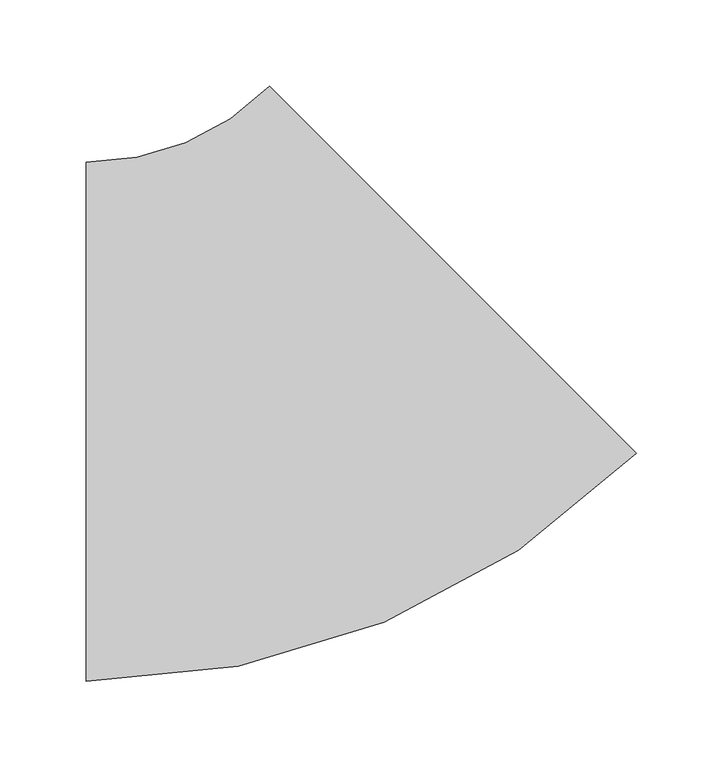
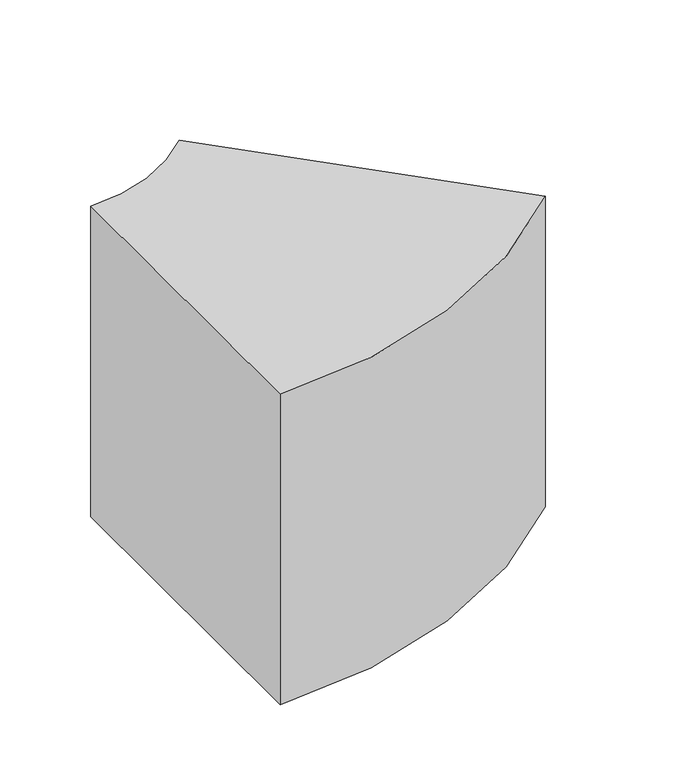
"""IFC4 building model written with IfcOpenShell, lengths in millimetres: duct fitting geometry, BL_ОтводВоздуховодов_Прямоугольный : BL_ОтводВоздуховодов_Прямоугольный."""

import ifcopenshell
import ifcopenshell.guid

model = None  # the IFC model being written
_history = None  # IfcOwnerHistory: only IFC2X3 demands one
_inside = {}  # id of a spatial element -> (the spatial element, [elements in it])
_under = {}  # id of a project, library or spatial element -> (it, [spatial elements below it])
_declared = {}  # id of a project -> (the project, [libraries it declares])
_typed = {}  # id of a type object -> (the type object, [elements of that type])
_made_of = {}  # id of a material, layer set ... -> (it, [elements and type objects made of it])


def new_model(schema):
    """Start an empty IFC model of exactly this schema.

    Asked for "IFC4X3", IfcOpenShell would pick the latest addendum, in which some entities
    have other attributes; the version numbers below select the first issue.
    IFC2X3 requires an IfcOwnerHistory on every rooted entity: one is made here for all.
    """
    global model, _history
    if schema == "IFC4X3":
        model = ifcopenshell.file(schema_version=(4, 3, 0, 0))
    else:
        model = ifcopenshell.file(schema=schema)
    _inside.clear()
    _under.clear()
    _declared.clear()
    _typed.clear()
    _made_of.clear()
    _history = None
    if model.schema == "IFC2X3":
        org = make("IfcOrganization", Name="unknown")
        user = make(
            "IfcPersonAndOrganization",
            ThePerson=make("IfcPerson", FamilyName="unknown"),
            TheOrganization=org,
        )
        app = make(
            "IfcApplication",
            ApplicationDeveloper=org,
            Version="unknown",
            ApplicationFullName="unknown",
            ApplicationIdentifier="unknown",
        )
        _history = make(
            "IfcOwnerHistory",
            OwningUser=user,
            OwningApplication=app,
            ChangeAction="ADDED",
            CreationDate=0,
        )
    return model


def make(cls, **values):
    """One entity of the class cls with the attributes given. An attribute that is None is left unset."""
    return model.create_entity(
        cls, **{name: value for name, value in values.items() if value is not None}
    )


def rooted(cls, **values):
    """An entity with a GlobalId (a new one), such as an element, a storey or a relation."""
    return make(cls, GlobalId=ifcopenshell.guid.new(), OwnerHistory=_history, **values)


def si_unit(unit_type, name, prefix=None):
    """IfcSIUnit, for example si_unit("LENGTHUNIT", "METRE", prefix="MILLI")."""
    return make("IfcSIUnit", UnitType=unit_type, Prefix=prefix, Name=name)


def assignment(units):
    """IfcUnitAssignment: the units of a project."""
    return None if units is None else make("IfcUnitAssignment", Units=units)


def point(xyz):
    """IfcCartesianPoint."""
    return None if xyz is None else make("IfcCartesianPoint", Coordinates=xyz)


def direction(xyz):
    """IfcDirection."""
    return None if xyz is None else make("IfcDirection", DirectionRatios=xyz)


def frame(location, z_axis=None, x_axis=None):
    """IfcAxis2Placement3D, a coordinate frame: its origin and axes. An axis left out is left unset."""
    return make(
        "IfcAxis2Placement3D",
        Location=point(location),
        Axis=direction(z_axis),
        RefDirection=direction(x_axis),
    )


def frame_2d(location, x_axis=None):
    """IfcAxis2Placement2D, a coordinate frame in the plane: its origin and x axis."""
    return make(
        "IfcAxis2Placement2D", Location=point(location), RefDirection=direction(x_axis)
    )


def origin():
    """The frame at (0, 0, 0) with its axes left unset."""
    return frame((0.0, 0.0, 0.0))


def place(relative_to, where):
    """IfcLocalPlacement: puts the frame where relative to a parent placement (None: the world)."""
    return make(
        "IfcLocalPlacement", PlacementRelTo=relative_to, RelativePlacement=where
    )


def context(
    kind, dimensions, precision=None, world=None, true_north=None, identifier=None
):
    """IfcGeometricRepresentationContext, for example the 3D "Model" context."""
    return make(
        "IfcGeometricRepresentationContext",
        ContextIdentifier=identifier,
        ContextType=kind,
        CoordinateSpaceDimension=dimensions,
        Precision=precision,
        WorldCoordinateSystem=world,
        TrueNorth=true_north,
    )


def project(units=None, contexts=None):
    """IfcProject with its units and contexts."""
    return rooted(
        "IfcProject",
        Name="project",
        RepresentationContexts=contexts,
        UnitsInContext=assignment(units),
    )


def spatial(cls, under=None, at=None, **own):
    """A site, building, storey or space (cls), placed at a placement, below another one or the project."""
    s = rooted(cls, ObjectPlacement=at, **own)
    if under is not None:
        _under.setdefault(under.id(), (under, []))[1].append(s)
    return s


def polyline(points):
    """IfcPolyline through the points."""
    return make("IfcPolyline", Points=[point(p) for p in points])


def circle_curve(where, radius):
    """IfcCircle in the frame where."""
    return make("IfcCircle", Position=where, Radius=radius)


def trimmed(basis, trim1, trim2, sense, master):
    """IfcTrimmedCurve: the piece of a basis curve between two trims."""
    return make(
        "IfcTrimmedCurve",
        BasisCurve=basis,
        Trim1=trim1,
        Trim2=trim2,
        SenseAgreement=sense,
        MasterRepresentation=master,
    )


def segment(curve, same_sense, transition):
    """IfcCompositeCurveSegment."""
    return make(
        "IfcCompositeCurveSegment",
        Transition=transition,
        SameSense=same_sense,
        ParentCurve=curve,
    )


def composite_curve(segments, self_intersect=None):
    """IfcCompositeCurve: segments joined end to end."""
    return make("IfcCompositeCurve", Segments=segments, SelfIntersect=self_intersect)


def outline(outer, holes=None, kind="AREA"):
    """IfcArbitraryClosedProfileDef: a profile drawn as a closed curve; with holes, ...WithVoids."""
    if holes is None:
        return make("IfcArbitraryClosedProfileDef", ProfileType=kind, OuterCurve=outer)
    return make(
        "IfcArbitraryProfileDefWithVoids",
        ProfileType=kind,
        OuterCurve=outer,
        InnerCurves=holes,
    )


def extrude(swept, where, along, depth):
    """IfcExtrudedAreaSolid: the profile swept, set in the frame where, extruded along a direction by depth."""
    return make(
        "IfcExtrudedAreaSolid",
        SweptArea=swept,
        Position=where,
        ExtrudedDirection=direction(along),
        Depth=depth,
    )


def shape(context_of_items, identifier, shape_type, items):
    """IfcShapeRepresentation: the items that make up one representation, for example the "Body"."""
    return make(
        "IfcShapeRepresentation",
        ContextOfItems=context_of_items,
        RepresentationIdentifier=identifier,
        RepresentationType=shape_type,
        Items=items,
    )


def source(mapping_origin, context_of_items, identifier, shape_type, items):
    """IfcRepresentationMap: a shape defined once, which mapped items show again and again."""
    return make(
        "IfcRepresentationMap",
        MappingOrigin=mapping_origin,
        MappedRepresentation=shape(context_of_items, identifier, shape_type, items),
    )


def transform(
    local_origin,
    x_axis=None,
    y_axis=None,
    z_axis=None,
    scale=None,
    scale2=None,
    scale3=None,
    uniform=True,
):
    """IfcCartesianTransformationOperator3D, or its non-uniform kind. x_axis, y_axis, z_axis: its Axis1, 2, 3."""
    if uniform:
        return make(
            "IfcCartesianTransformationOperator3D",
            Axis1=direction(x_axis),
            Axis2=direction(y_axis),
            LocalOrigin=point(local_origin),
            Scale=scale,
            Axis3=direction(z_axis),
        )
    return make(
        "IfcCartesianTransformationOperator3DnonUniform",
        Axis1=direction(x_axis),
        Axis2=direction(y_axis),
        LocalOrigin=point(local_origin),
        Scale=scale,
        Axis3=direction(z_axis),
        Scale2=scale2,
        Scale3=scale3,
    )


def mapped(mapping_source, mapping_target):
    """IfcMappedItem: shows the shape of a source again, moved by a transform."""
    return make(
        "IfcMappedItem", MappingSource=mapping_source, MappingTarget=mapping_target
    )


def made_of(thing, what):
    """Note that an element or type object is made of a material, layer set ...; save() writes the relation."""
    if what is not None:
        _made_of.setdefault(what.id(), (what, []))[1].append(thing)
    return thing


def element(
    cls,
    number,
    at=None,
    inside=None,
    cuts=None,
    type_object=None,
    material=None,
    context=None,
    identifier="Body",
    shape_type=None,
    held_by="IfcProductDefinitionShape",
    body=None,
    shapes=None,
    **own,
):
    """One element of the class cls, such as IfcWall. Its Tag is "e" and its number.

    at: its placement. inside: the storey or other place that contains it. cuts: it is an
    opening in that element (IfcRelVoidsElement). A single representation is given by context,
    identifier, shape_type and body (its items); several are given by shapes. held_by: the class
    of the entity that holds the representations. save() writes the other relations.
    """
    e = rooted(cls, Tag="e%d" % number, ObjectPlacement=at, **own)
    if body is not None:
        shapes = [shape(context, identifier, shape_type, body)]
    if shapes is not None:
        e.Representation = make(held_by, Representations=shapes)
    if inside is not None:
        _inside.setdefault(inside.id(), (inside, []))[1].append(e)
    if cuts is not None:
        rooted(
            "IfcRelVoidsElement", RelatingBuildingElement=cuts, RelatedOpeningElement=e
        )
    if type_object is not None:
        _typed.setdefault(type_object.id(), (type_object, []))[1].append(e)
    return made_of(e, material)


def aggregate(whole, parts):
    """IfcRelAggregates: a whole, such as a stair, and the parts it consists of."""
    return rooted("IfcRelAggregates", RelatingObject=whole, RelatedObjects=parts)


def save(model, path):
    """Write the relations noted so far, then the file.

    IfcRelAggregates (storeys below a building ...), IfcRelContainedInSpatialStructure (elements
    in a storey), IfcRelDefinesByType, IfcRelAssociatesMaterial and IfcRelDeclares: one each for
    every whole, place, type object, material and project.
    """
    for whole, parts in _under.values():
        aggregate(whole, parts)
    for where, things in _inside.values():
        rooted(
            "IfcRelContainedInSpatialStructure",
            RelatedElements=things,
            RelatingStructure=where,
        )
    for kind, things in _typed.values():
        rooted("IfcRelDefinesByType", RelatedObjects=things, RelatingType=kind)
    for what, things in _made_of.values():
        rooted("IfcRelAssociatesMaterial", RelatedObjects=things, RelatingMaterial=what)
    for by, libraries in _declared.values():
        rooted("IfcRelDeclares", RelatingContext=by, RelatedDefinitions=libraries)
    model.write(path)


def duct_fitting_db13525b(model_context):
    return source(origin(), model_context, "Body", "SweptSolid", [
        extrude(outline(composite_curve([segment(trimmed(circle_curve(frame_2d((-124.2640687, 300.0)), 450.0), [point((193.9339828, -18.1980515))], [point((-124.2640687, -150.0))], False, "CARTESIAN"), True, "CONTINUOUS"), segment(polyline([(-124.2640687, -150.0), (-124.2640687, 150.0)]), True, "CONTINUOUS"), segment(trimmed(circle_curve(frame_2d((-124.2640687, 300.0)), 150.0), [point((-124.2640687, 150.0))], [point((-18.1980515, 193.9339828))], True, "CARTESIAN"), True, "CONTINUOUS"), segment(polyline([(-18.1980515, 193.9339828), (193.9339828, -18.1980515)]), True, "CONTINUOUS")], self_intersect=False)), frame((0.0, 0.0, -150.0), z_axis=(0.0, 0.0, 1.0), x_axis=(1.0, 0.0, 0.0)), (0.0, 0.0, 1.0), 300.0),
    ])


if __name__ == "__main__":
    model = new_model("IFC4")
    model_context = context("Model", 3, world=origin())
    ifc_project = project(units=[si_unit("LENGTHUNIT", "METRE", prefix="MILLI")], contexts=[model_context])
    site = spatial("IfcSite", under=ifc_project)
    building = spatial("IfcBuilding", under=site)
    placement = place(None, origin())
    duct_fitting_shape = duct_fitting_db13525b(model_context)
    element("IfcDuctFitting", 1, ObjectType="BL_ОтводВоздуховодов_Прямоугольный : BL_ОтводВоздуховодов_Прямоугольный", at=placement, inside=building, context=model_context, shape_type="MappedRepresentation", body=[
        mapped(duct_fitting_shape, transform((0.0, 0.0, 0.0), x_axis=(1.0, 0.0, 0.0), y_axis=(0.0, 1.0, 0.0), z_axis=(0.0, 0.0, 1.0))),
    ])
    save(model, "model.ifc")
